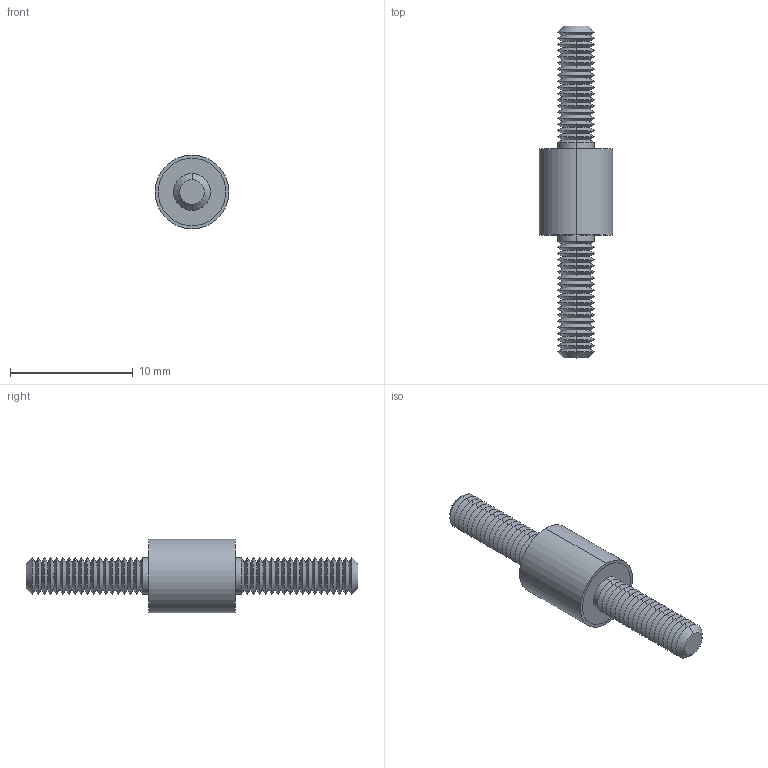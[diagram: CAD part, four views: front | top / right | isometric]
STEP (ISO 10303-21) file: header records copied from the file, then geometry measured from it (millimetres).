
FILE_DESCRIPTION (( 'STEP AP203' ), '1' );
FILE_NAME ('Default.step', '2019-09-24T22:22:01', ( '' ), ( '' ), 'SwSTEP 2.0', 'SolidWorks 2017', '' );
FILE_SCHEMA (( 'CONFIG_CONTROL_DESIGN' ));
Length unit declared in the file: millimetre
Products named in the file (4): Part3; Part1; Default; Part2
Assembly tree (3 placements, depth 2):
  Default
    Part1
    Part2
    Part3
Bounding box: 6 x 27 x 6 mm (x, y, z)
Volume: 304 mm3; surface area: 621.1 mm2
Topology: 3 solids, 3 shells, 172 faces, 338 edges, 176 vertices
Faces by surface type: cone 148, cylinder 14, plane 10
Entity records: 4708 total; most frequent: DIRECTION 870, CARTESIAN_POINT 692, ORIENTED_EDGE 676, AXIS2_PLACEMENT_3D 354, EDGE_CURVE 338, CIRCLE 176, VERTEX_POINT 176, EDGE_LOOP 176
